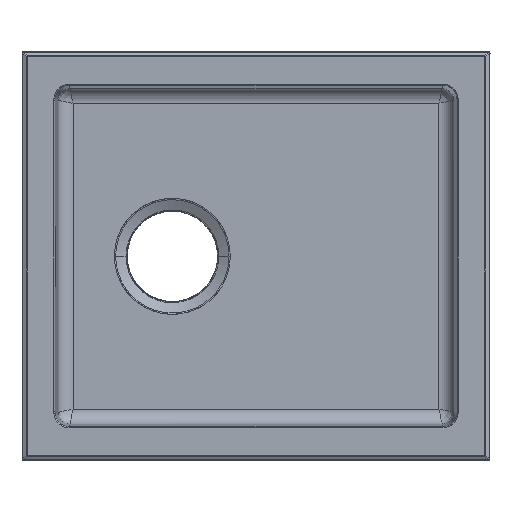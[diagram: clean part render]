
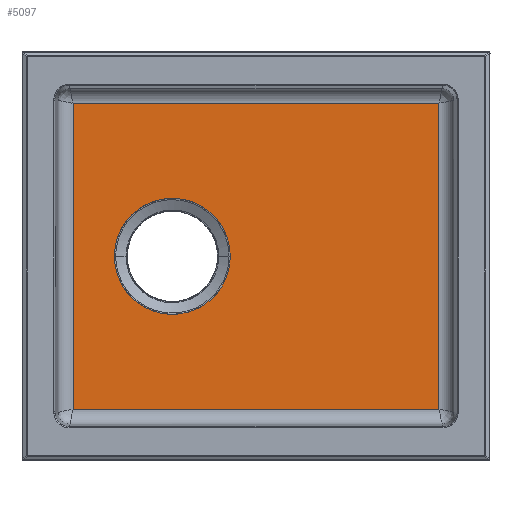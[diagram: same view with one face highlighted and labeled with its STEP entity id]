
A CAD part, top view. The second image highlights one B-rep face of the part: STEP entity #5097.
In plain terms, the highlighted planar face has unit normal (0, 0, 1).
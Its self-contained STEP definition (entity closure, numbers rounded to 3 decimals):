
#3301=CARTESIAN_POINT('Vertex',(-182.202,152.202,-193.2)) ;
#3536=CARTESIAN_POINT('Vertex',(-182.202,-152.202,-193.2)) ;
#3758=CARTESIAN_POINT('Vertex',(-140.948,0.,-193.2)) ;
#3762=CARTESIAN_POINT('Control Point',(-25.552,0.,-193.2)) ;
#3763=CARTESIAN_POINT('Control Point',(-25.552,-0.431,-193.2)) ;
#3764=CARTESIAN_POINT('Control Point',(-25.556,-0.862,-193.2)) ;
#3765=CARTESIAN_POINT('Control Point',(-25.564,-1.295,-193.2)) ;
#3766=CARTESIAN_POINT('Control Point',(-25.734,-7.343,-193.2)) ;
#3767=CARTESIAN_POINT('Control Point',(-26.696,-13.362,-193.2)) ;
#3768=CARTESIAN_POINT('Control Point',(-28.269,-18.814,-193.2)) ;
#3769=CARTESIAN_POINT('Control Point',(-32.711,-29.227,-193.2)) ;
#3770=CARTESIAN_POINT('Control Point',(-39.52,-38.27,-193.2)) ;
#3771=CARTESIAN_POINT('Control Point',(-43.461,-42.353,-193.2)) ;
#3772=CARTESIAN_POINT('Control Point',(-52.26,-49.479,-193.2)) ;
#3773=CARTESIAN_POINT('Control Point',(-62.513,-54.285,-193.2)) ;
#3774=CARTESIAN_POINT('Control Point',(-67.907,-56.049,-193.2)) ;
#3775=CARTESIAN_POINT('Control Point',(-79.016,-58.228,-193.2)) ;
#3776=CARTESIAN_POINT('Control Point',(-90.322,-57.679,-193.2)) ;
#3777=CARTESIAN_POINT('Control Point',(-95.914,-56.714,-193.2)) ;
#3778=CARTESIAN_POINT('Control Point',(-106.753,-53.442,-193.2)) ;
#3779=CARTESIAN_POINT('Control Point',(-116.491,-47.665,-193.2)) ;
#3780=CARTESIAN_POINT('Control Point',(-120.982,-44.195,-193.2)) ;
#3781=CARTESIAN_POINT('Control Point',(-130.412,-34.863,-193.2)) ;
#3782=CARTESIAN_POINT('Control Point',(-136.895,-23.201,-193.2)) ;
#3783=CARTESIAN_POINT('Control Point',(-139.476,-15.96,-193.2)) ;
#3784=CARTESIAN_POINT('Control Point',(-140.858,-8.253,-193.2)) ;
#3785=CARTESIAN_POINT('Control Point',(-140.946,-0.527,-193.2)) ;
#3786=CARTESIAN_POINT('Control Point',(-140.947,-0.351,-193.2)) ;
#3787=CARTESIAN_POINT('Control Point',(-140.948,-0.176,-193.2)) ;
#3788=CARTESIAN_POINT('Control Point',(-140.948,0.,-193.2)) ;
#3789=CARTESIAN_POINT('Vertex',(-25.552,0.,-193.2)) ;
#3951=CARTESIAN_POINT('Control Point',(-25.552,0.,-193.2)) ;
#3952=CARTESIAN_POINT('Control Point',(-25.552,0.113,-193.2)) ;
#3953=CARTESIAN_POINT('Control Point',(-25.552,0.226,-193.2)) ;
#3954=CARTESIAN_POINT('Control Point',(-25.553,0.339,-193.2)) ;
#3955=CARTESIAN_POINT('Control Point',(-25.592,5.651,-193.2)) ;
#3956=CARTESIAN_POINT('Control Point',(-26.242,10.957,-193.2)) ;
#3957=CARTESIAN_POINT('Control Point',(-27.463,16.055,-193.2)) ;
#3958=CARTESIAN_POINT('Control Point',(-31.177,26.288,-193.2)) ;
#3959=CARTESIAN_POINT('Control Point',(-37.162,35.394,-193.2)) ;
#3960=CARTESIAN_POINT('Control Point',(-40.834,39.721,-193.2)) ;
#3961=CARTESIAN_POINT('Control Point',(-48.638,46.915,-193.2)) ;
#3962=CARTESIAN_POINT('Control Point',(-57.848,52.157,-193.2)) ;
#3963=CARTESIAN_POINT('Control Point',(-62.391,54.134,-193.2)) ;
#3964=CARTESIAN_POINT('Control Point',(-72.502,57.302,-193.2)) ;
#3965=CARTESIAN_POINT('Control Point',(-83.083,58.111,-193.2)) ;
#3966=CARTESIAN_POINT('Control Point',(-88.752,57.85,-193.2)) ;
#3967=CARTESIAN_POINT('Control Point',(-99.912,55.954,-193.2)) ;
#3968=CARTESIAN_POINT('Control Point',(-110.294,51.434,-193.2)) ;
#3969=CARTESIAN_POINT('Control Point',(-115.183,48.551,-193.2)) ;
#3970=CARTESIAN_POINT('Control Point',(-126.825,39.603,-193.2)) ;
#3971=CARTESIAN_POINT('Control Point',(-135.241,27.373,-193.2)) ;
#3972=CARTESIAN_POINT('Control Point',(-138.873,18.935,-193.2)) ;
#3973=CARTESIAN_POINT('Control Point',(-140.819,9.8,-193.2)) ;
#3974=CARTESIAN_POINT('Control Point',(-140.945,0.632,-193.2)) ;
#3975=CARTESIAN_POINT('Control Point',(-140.947,0.421,-193.2)) ;
#3976=CARTESIAN_POINT('Control Point',(-140.948,0.21,-193.2)) ;
#3977=CARTESIAN_POINT('Control Point',(-140.948,0.,-193.2)) ;
#4174=CARTESIAN_POINT('Vertex',(182.202,152.202,-193.2)) ;
#4623=CARTESIAN_POINT('Vertex',(182.202,-152.202,-193.2)) ;
#4631=CARTESIAN_POINT('Line Origine',(182.202,0.,-193.2)) ;
#4659=CARTESIAN_POINT('Line Origine',(0.,-152.202,-193.2)) ;
#5072=CARTESIAN_POINT('Axis2P3D Location',(200.315,155.315,-193.2)) ;
#5077=CARTESIAN_POINT('Line Origine',(200.315,152.202,-193.2)) ;
#5082=CARTESIAN_POINT('Line Origine',(-182.202,155.315,-193.2)) ;
#4632=DIRECTION('Vector Direction',(0.,1.,0.)) ;
#4660=DIRECTION('Vector Direction',(1.,0.,0.)) ;
#5073=DIRECTION('Axis2P3D Direction',(0.,0.,-1.)) ;
#5074=DIRECTION('Axis2P3D XDirection',(1.,0.,0.)) ;
#5078=DIRECTION('Vector Direction',(1.,0.,0.)) ;
#5083=DIRECTION('Vector Direction',(0.,-1.,0.)) ;
#5075=AXIS2_PLACEMENT_3D('Plane Axis2P3D',#5072,#5073,#5074) ;
#5088=ORIENTED_EDGE('',*,*,#5081,.F.) ;
#5089=ORIENTED_EDGE('',*,*,#5086,.F.) ;
#5090=ORIENTED_EDGE('',*,*,#4663,.F.) ;
#5091=ORIENTED_EDGE('',*,*,#4635,.F.) ;
#5094=ORIENTED_EDGE('',*,*,#3791,.F.) ;
#5095=ORIENTED_EDGE('',*,*,#3978,.F.) ;
#5096=FACE_BOUND('',#5093,.T.) ;
#4633=VECTOR('Line Direction',#4632,1.) ;
#4661=VECTOR('Line Direction',#4660,1.) ;
#5079=VECTOR('Line Direction',#5078,1.) ;
#5084=VECTOR('Line Direction',#5083,1.) ;
#5097=ADVANCED_FACE('Body.2',(#5092,#5096),#5076,.F.) ;
#3761=B_SPLINE_CURVE_WITH_KNOTS('',5,(#3762,#3763,#3764,#3765,#3766,#3767,#3768,#3769,#3770,#3771,#3772,#3773,#3774,#3775,#3776,#3777,#3778,#3779,#3780,#3781,#3782,#3783,#3784,#3785,#3786,#3787,#3788),.UNSPECIFIED.,.F.,.U.,(6,3,3,3,3,3,3,3,6),(88.598,91.485,129.205,166.921,204.641,242.362,280.079,330.762,331.94),.UNSPECIFIED.) ;
#3950=B_SPLINE_CURVE_WITH_KNOTS('',5,(#3951,#3952,#3953,#3954,#3955,#3956,#3957,#3958,#3959,#3960,#3961,#3962,#3963,#3964,#3965,#3966,#3967,#3968,#3969,#3970,#3971,#3972,#3973,#3974,#3975,#3976,#3977),.UNSPECIFIED.,.F.,.U.,(6,3,3,3,3,3,3,3,6),(84.341,85.099,119.994,157.713,190.716,228.437,266.155,326.273,327.694),.UNSPECIFIED.) ;
#3791=EDGE_CURVE('',#3759,#3790,#3761,.F.) ;
#3978=EDGE_CURVE('',#3790,#3759,#3950,.T.) ;
#4635=EDGE_CURVE('',#4175,#4624,#4634,.F.) ;
#4663=EDGE_CURVE('',#4624,#3537,#4662,.F.) ;
#5081=EDGE_CURVE('',#3302,#4175,#5080,.T.) ;
#5086=EDGE_CURVE('',#3537,#3302,#5085,.F.) ;
#5087=EDGE_LOOP('',(#5088,#5089,#5090,#5091)) ;
#5093=EDGE_LOOP('',(#5094,#5095)) ;
#5092=FACE_OUTER_BOUND('',#5087,.T.) ;
#4634=LINE('Line',#4631,#4633) ;
#4662=LINE('Line',#4659,#4661) ;
#5080=LINE('Line',#5077,#5079) ;
#5085=LINE('Line',#5082,#5084) ;
#5076=PLANE('',#5075) ;
#3302=VERTEX_POINT('',#3301) ;
#3537=VERTEX_POINT('',#3536) ;
#3759=VERTEX_POINT('',#3758) ;
#3790=VERTEX_POINT('',#3789) ;
#4175=VERTEX_POINT('',#4174) ;
#4624=VERTEX_POINT('',#4623) ;
